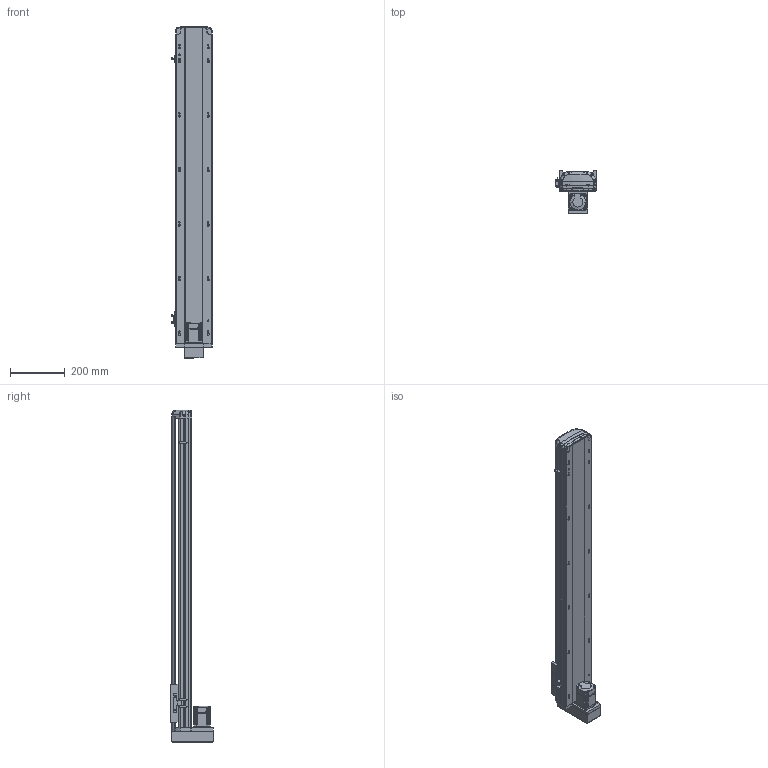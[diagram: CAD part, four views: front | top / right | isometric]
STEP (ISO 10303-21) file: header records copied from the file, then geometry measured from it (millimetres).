
FILE_DESCRIPTION (( 'STEP AP214' ), '1' );
FILE_NAME ('RTH14-XX-950-M-M20-C4.STEP', '2025-10-25T02:52:15', ( 'Microsoft' ), ( 'Microsoft' ), 'SwSTEP 2.0', 'SolidWorks 2018', '' );
FILE_SCHEMA (( 'AUTOMOTIVE_DESIGN' ));
Length unit declared in the file: millimetre
Products named in the file (10): N_RTH14-M-007P奻裔^RTH14-XX-XX-M-M20-C4; N_RTH13-L-012感应片（外置）^RTH14-XX-XX-M-M20-C4; N_RTH14-M-011P菁釱^RTH14-XX-XX-M-M20-C4; N_RTH14-GY-001P^RTH14-XX-XX-M-M20-C4; N_OMRON EE-SX672 传感器^RTH14-XX-XX-M-M20-C4; RTH14-XX-950-M-M20-C4; N_RTH13-M-018裔赽^RTH14-XX-XX-M-M20-C4; N_MSMD022P1AA_200W^RTH14-XX-XX-M-M20-C4; N_RTH13-M-008萇儂啣狟殏^RTH14-XX-XX-M-M20-C4; N_RTH14-R-004-SFSR16賑釱^RTH14-XX-XX-M-M20-C4
Assembly tree (11 placements, depth 2):
  RTH14-XX-950-M-M20-C4
    N_RTH14-M-011P菁釱^RTH14-XX-XX-M-M20-C4
    N_RTH14-M-007P奻裔^RTH14-XX-XX-M-M20-C4
    N_MSMD022P1AA_200W^RTH14-XX-XX-M-M20-C4
    N_RTH13-M-008萇儂啣狟殏^RTH14-XX-XX-M-M20-C4
    N_RTH13-M-018裔赽^RTH14-XX-XX-M-M20-C4
    N_RTH13-L-012感应片（外置）^RTH14-XX-XX-M-M20-C4
    N_OMRON EE-SX672 传感器^RTH14-XX-XX-M-M20-C4  x3
    N_RTH14-R-004-SFSR16賑釱^RTH14-XX-XX-M-M20-C4
    N_RTH14-GY-001P^RTH14-XX-XX-M-M20-C4
Bounding box: 148.5 x 156.5 x 1217.49 mm (x, y, z)
Volume: 5233100 mm3; surface area: 1197478.7 mm2
Topology: 11 solids, 11 shells, 1903 faces, 5324 edges, 3488 vertices
Faces by surface type: plane 999, cylinder 510, bspline 345, cone 45, torus 4
Entity records: 58314 total; most frequent: CARTESIAN_POINT 23307, ORIENTED_EDGE 7716, DIRECTION 6243, EDGE_CURVE 3858, VERTEX_POINT 2524, VECTOR 2201, LINE 2201, AXIS2_PLACEMENT_3D 2021
